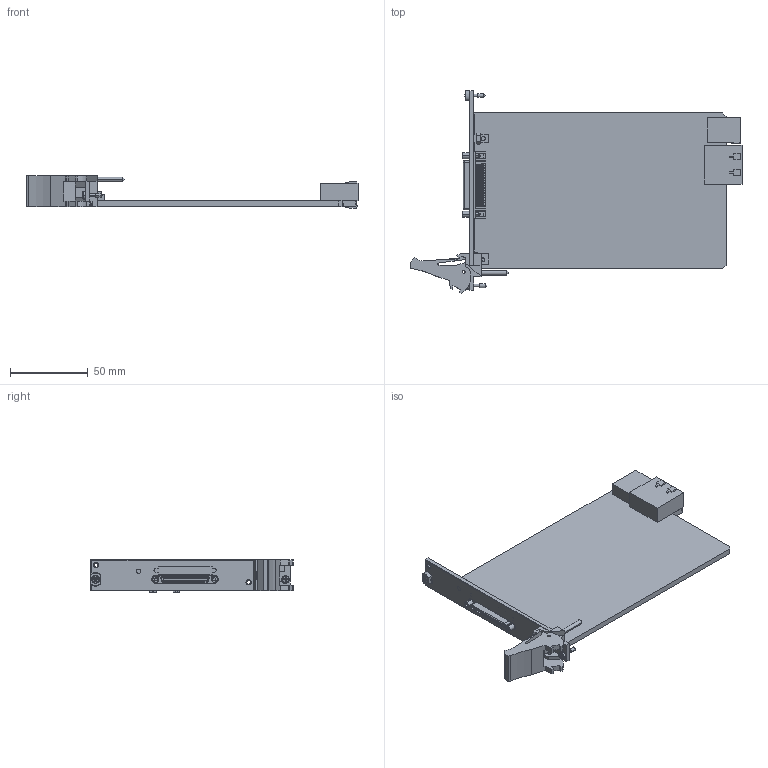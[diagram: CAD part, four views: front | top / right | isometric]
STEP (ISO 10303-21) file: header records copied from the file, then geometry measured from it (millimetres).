
FILE_DESCRIPTION((''),'2;1');
FILE_NAME('CU_PXIE-MOD-1X-68POS-VHDCI','2008-07-21T',('scarrasc'),(''),'PRO/ENGINEER BY PARAMETRIC TECHNOLOGY CORPORATION, 2006300','PRO/ENGINEER BY PARAMETRIC TECHNOLOGY CORPORATION, 2006300','');
FILE_SCHEMA(('CONFIG_CONTROL_DESIGN'));
Products named in the file (1): CU_PXIE-MOD-1X-68POS-VHDCI
Bounding box: 213.88 x 130.5 x 20.78 mm (x, y, z)
Volume: 85193.3 mm3; surface area: 51700 mm2
Topology: 2 solids, 2 shells, 2092 faces, 5629 edges, 3682 vertices
Faces by surface type: plane 1727, cylinder 331, cone 22, torus 4, sphere 4, bspline 4
Entity records: 65496 total; most frequent: CARTESIAN_POINT 12151, ORIENTED_EDGE 11250, DIRECTION 10469, EDGE_CURVE 5625, VECTOR 4799, LINE 4799, VERTEX_POINT 3682, AXIS2_PLACEMENT_3D 2835
